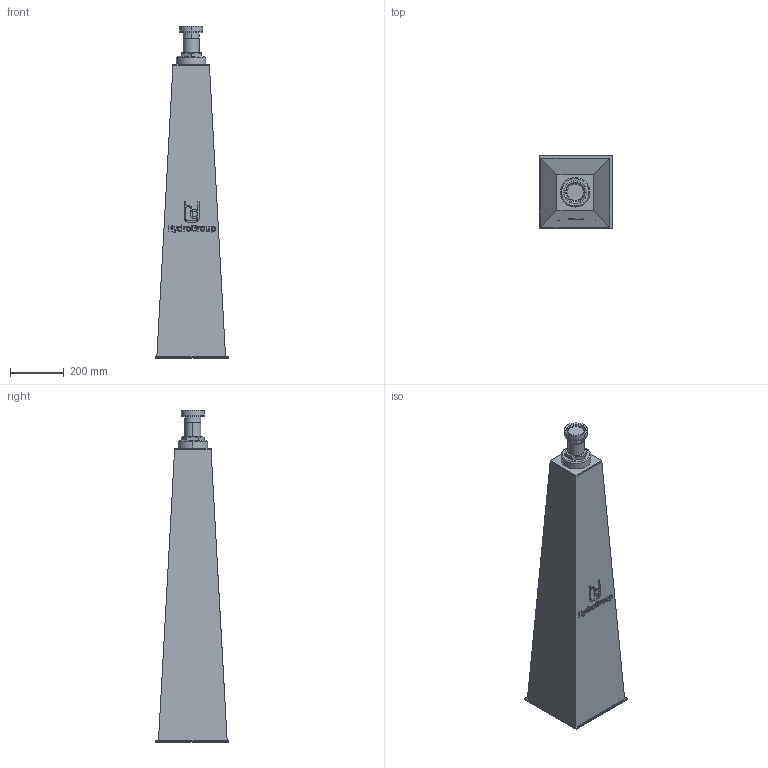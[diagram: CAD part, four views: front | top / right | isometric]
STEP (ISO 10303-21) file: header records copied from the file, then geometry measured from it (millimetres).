
FILE_DESCRIPTION(('STEP AP214'),'1');
FILE_NAME('RSRFE-IV-09-V0.stp','2018-06-29T11:12:59',(' '),(' '),'Spatial InterOp 3D',' ',' ');
FILE_SCHEMA(('automotive_design'));
Length unit declared in the file: millimetre
Products named in the file (6): 1; 2; 3; 4; 5; 6
Bounding box: 270 x 270 x 1236.99 mm (x, y, z)
Volume: 44597873 mm3; surface area: 1225767.3 mm2
Topology: 6 solids, 6 shells, 226 faces, 558 edges, 363 vertices
Faces by surface type: plane 135, cylinder 33, extrusion 24, cone 24, torus 10
Entity records: 9120 total; most frequent: CARTESIAN_POINT 1827, ORIENTED_EDGE 1116, DIRECTION 1059, EDGE_CURVE 558, VECTOR 401, LINE 377, VERTEX_POINT 363, AXIS2_PLACEMENT_3D 329
